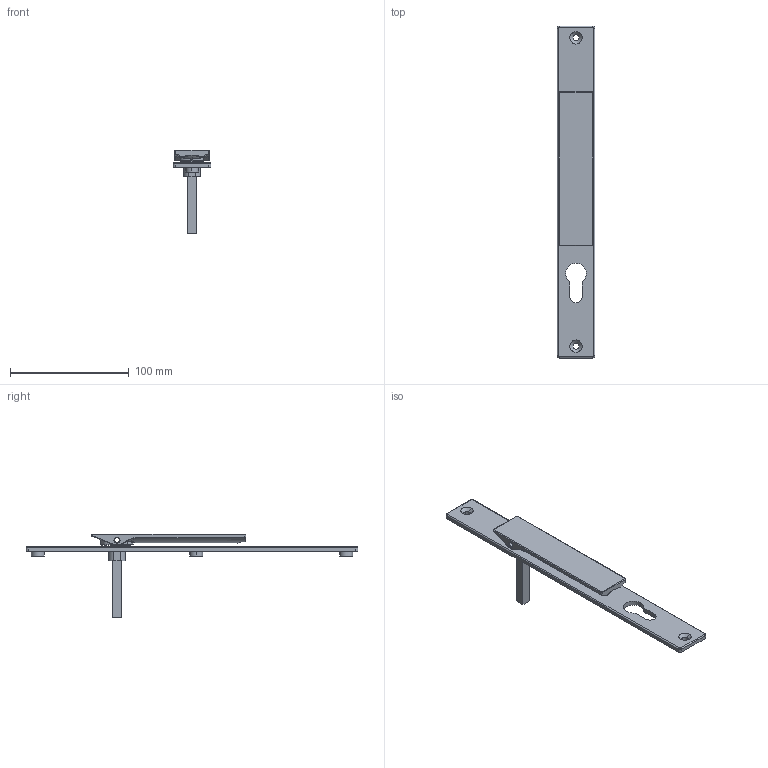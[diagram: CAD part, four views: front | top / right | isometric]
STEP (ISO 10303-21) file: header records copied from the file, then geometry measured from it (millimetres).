
FILE_DESCRIPTION (( 'STEP AP203' ), '1' );
FILE_NAME ('TPL-SS-004-C 23Apr2026.STEP', '2026-04-22T23:00:41', ( '' ), ( '' ), 'SwSTEP 2.0', 'SolidWorks 2023', '' );
FILE_SCHEMA (( 'CONFIG_CONTROL_DESIGN' ));
Length unit declared in the file: millimetre
Products named in the file (6): Copy of LKC-585 Rotator body zinc - simplified^TPGen2 handle keyed internal SS - simplified; Copy of Escutcheon plate keyed internal 280mm - simplified^TPGen2 handle keyed internal SS - simplified; TPL-SS-004-C 23Apr2026; Copy of LKC-584 Pivot body zinc - simplified^TPGen2 handle keyed internal SS - simplified; Copy of LKC-586 Spindle square 8mm with M4 hole - simplified^TPGen2 handle keyed internal SS - simplified_56mm; Copy of LKC-506 Swing handle SS - simplified^TPGen2 handle keyed internal SS - simplified
Assembly tree (5 placements, depth 2):
  TPL-SS-004-C 23Apr2026
    Copy of Escutcheon plate keyed internal 280mm - simplified^TPGen2 handle keyed internal SS - simplified
    Copy of LKC-586 Spindle square 8mm with M4 hole - simplified^TPGen2 handle keyed internal SS - simplified_56mm
    Copy of LKC-584 Pivot body zinc - simplified^TPGen2 handle keyed internal SS - simplified
    Copy of LKC-585 Rotator body zinc - simplified^TPGen2 handle keyed internal SS - simplified
    Copy of LKC-506 Swing handle SS - simplified^TPGen2 handle keyed internal SS - simplified
Bounding box: 32 x 280 x 70.55 mm (x, y, z)
Volume: 60728.9 mm3; surface area: 34777.9 mm2
Topology: 5 solids, 5 shells, 298 faces, 712 edges, 430 vertices
Faces by surface type: cylinder 113, plane 81, bspline 44, torus 36, cone 22, sphere 2
Entity records: 10250 total; most frequent: CARTESIAN_POINT 2934, ORIENTED_EDGE 1420, DIRECTION 1411, EDGE_CURVE 710, AXIS2_PLACEMENT_3D 559, VERTEX_POINT 430, EDGE_LOOP 332, ADVANCED_FACE 298
